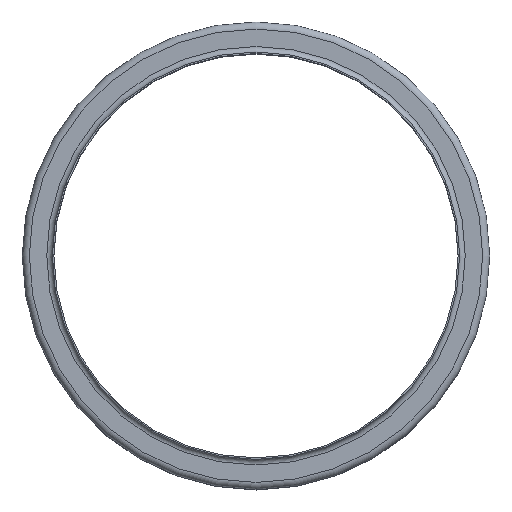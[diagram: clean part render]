
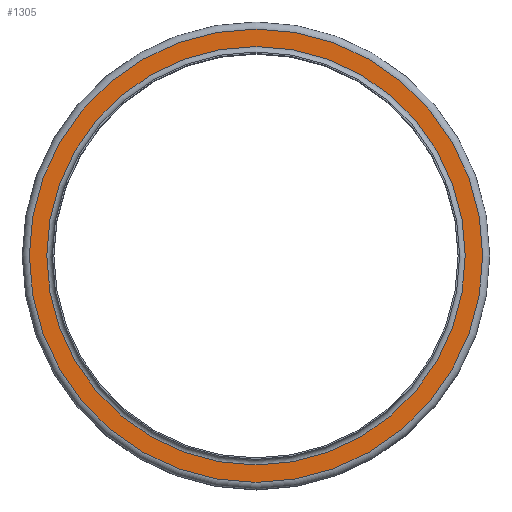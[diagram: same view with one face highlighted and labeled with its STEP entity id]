
A CAD part, top view. The second image highlights one B-rep face of the part: STEP entity #1305.
In plain terms, the highlighted planar face has unit normal (0, 0, 1).
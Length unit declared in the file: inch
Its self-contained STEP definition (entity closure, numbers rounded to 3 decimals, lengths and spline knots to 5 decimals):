
#130=FACE_BOUND('',#384,.T.);
#229=FACE_OUTER_BOUND('',#383,.T.);
#383=EDGE_LOOP('',(#1108));
#384=EDGE_LOOP('',(#1109));
#545=CIRCLE('',#1574,8.28);
#546=CIRCLE('',#1576,8.97);
#658=VERTEX_POINT('',#2470);
#659=VERTEX_POINT('',#2474);
#811=EDGE_CURVE('',#658,#658,#545,.T.);
#812=EDGE_CURVE('',#659,#659,#546,.T.);
#1108=ORIENTED_EDGE('',*,*,#812,.F.);
#1109=ORIENTED_EDGE('',*,*,#811,.T.);
#1206=PLANE('',#1575);
#1305=ADVANCED_FACE('',(#229,#130),#1206,.T.);
#1574=AXIS2_PLACEMENT_3D('',#2472,#2070,#2071);
#1575=AXIS2_PLACEMENT_3D('',#2473,#2072,#2073);
#1576=AXIS2_PLACEMENT_3D('',#2475,#2074,#2075);
#2070=DIRECTION('center_axis',(0.,0.,-1.));
#2071=DIRECTION('ref_axis',(1.,0.,0.));
#2072=DIRECTION('center_axis',(0.,0.,1.));
#2073=DIRECTION('ref_axis',(1.,0.,0.));
#2074=DIRECTION('center_axis',(0.,0.,-1.));
#2075=DIRECTION('ref_axis',(1.,0.,0.));
#2470=CARTESIAN_POINT('',(8.28,0.,-0.22));
#2472=CARTESIAN_POINT('Origin',(0.,0.,-0.22));
#2473=CARTESIAN_POINT('Origin',(0.,8.97,-0.22));
#2474=CARTESIAN_POINT('',(8.97,0.,-0.22));
#2475=CARTESIAN_POINT('Origin',(0.,0.,-0.22));
